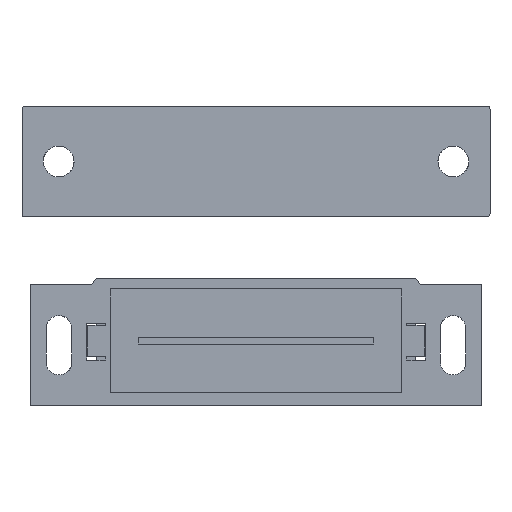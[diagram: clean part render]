
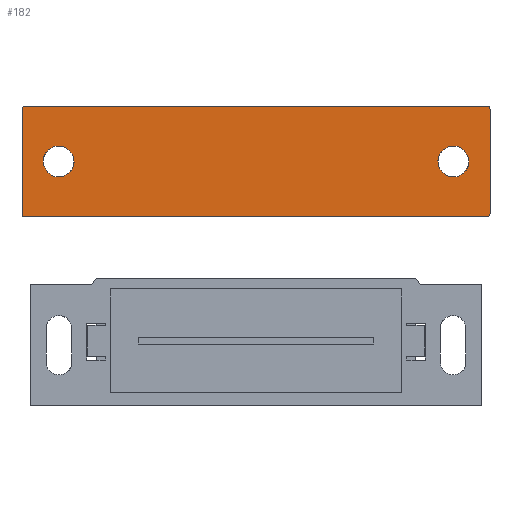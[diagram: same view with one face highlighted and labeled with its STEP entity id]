
A CAD part, front view. The second image highlights one B-rep face of the part: STEP entity #182.
In plain terms, the highlighted planar face has unit normal (0, -1, 0).
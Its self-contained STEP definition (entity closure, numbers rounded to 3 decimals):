
#39=FACE_BOUND('',#494,.T.);
#40=FACE_BOUND('',#495,.T.);
#182=ADVANCED_FACE('',(#333,#39,#40),#2618,.T.);
#333=FACE_OUTER_BOUND('',#493,.T.);
#493=EDGE_LOOP('',(#1289,#1290,#1291,#1292,#1293,#1294,#1295,#1296));
#494=EDGE_LOOP('',(#1297,#1298));
#495=EDGE_LOOP('',(#1299,#1300));
#1289=ORIENTED_EDGE('',*,*,#1765,.T.);
#1290=ORIENTED_EDGE('',*,*,#1739,.T.);
#1291=ORIENTED_EDGE('',*,*,#1759,.T.);
#1292=ORIENTED_EDGE('',*,*,#1741,.T.);
#1293=ORIENTED_EDGE('',*,*,#1761,.T.);
#1294=ORIENTED_EDGE('',*,*,#1745,.F.);
#1295=ORIENTED_EDGE('',*,*,#1763,.T.);
#1296=ORIENTED_EDGE('',*,*,#1749,.F.);
#1297=ORIENTED_EDGE('',*,*,#1731,.T.);
#1298=ORIENTED_EDGE('',*,*,#1768,.T.);
#1299=ORIENTED_EDGE('',*,*,#1734,.T.);
#1300=ORIENTED_EDGE('',*,*,#1771,.T.);
#1731=EDGE_CURVE('',#2445,#2469,#1831,.T.);
#1734=EDGE_CURVE('',#2447,#2471,#1833,.T.);
#1739=EDGE_CURVE('',#2452,#2451,#2177,.T.);
#1741=EDGE_CURVE('',#2453,#2454,#2179,.T.);
#1745=EDGE_CURVE('',#2457,#2458,#2183,.T.);
#1749=EDGE_CURVE('',#2461,#2462,#2187,.T.);
#1759=EDGE_CURVE('',#2451,#2453,#1839,.T.);
#1761=EDGE_CURVE('',#2454,#2458,#1841,.T.);
#1763=EDGE_CURVE('',#2457,#2462,#1843,.T.);
#1765=EDGE_CURVE('',#2461,#2452,#1845,.T.);
#1768=EDGE_CURVE('',#2469,#2445,#1847,.T.);
#1771=EDGE_CURVE('',#2471,#2447,#1849,.T.);
#1831=(
BOUNDED_CURVE()
B_SPLINE_CURVE(2,(#4407,#4408,#4409,#4410,#4411),.UNSPECIFIED.,.F.,.F.)
B_SPLINE_CURVE_WITH_KNOTS((3,2,3),(-15.708,-11.781,
-7.854),.UNSPECIFIED.)
CURVE()
GEOMETRIC_REPRESENTATION_ITEM()
RATIONAL_B_SPLINE_CURVE((1.,0.707,1.,0.707,1.))
REPRESENTATION_ITEM('')
);
#1833=(
BOUNDED_CURVE()
B_SPLINE_CURVE(2,(#4419,#4420,#4421,#4422,#4423),.UNSPECIFIED.,.F.,.F.)
B_SPLINE_CURVE_WITH_KNOTS((3,2,3),(-15.708,-11.781,-7.854),
 .UNSPECIFIED.)
CURVE()
GEOMETRIC_REPRESENTATION_ITEM()
RATIONAL_B_SPLINE_CURVE((1.,0.707,1.,0.707,1.))
REPRESENTATION_ITEM('')
);
#1839=(
BOUNDED_CURVE()
B_SPLINE_CURVE(2,(#4487,#4488,#4489),.UNSPECIFIED.,.F.,.F.)
B_SPLINE_CURVE_WITH_KNOTS((3,3),(-0.785,0.),.UNSPECIFIED.)
CURVE()
GEOMETRIC_REPRESENTATION_ITEM()
RATIONAL_B_SPLINE_CURVE((1.,0.707,1.))
REPRESENTATION_ITEM('')
);
#1841=(
BOUNDED_CURVE()
B_SPLINE_CURVE(2,(#4493,#4494,#4495),.UNSPECIFIED.,.F.,.F.)
B_SPLINE_CURVE_WITH_KNOTS((3,3),(-0.785,0.),.UNSPECIFIED.)
CURVE()
GEOMETRIC_REPRESENTATION_ITEM()
RATIONAL_B_SPLINE_CURVE((1.,0.707,1.))
REPRESENTATION_ITEM('')
);
#1843=(
BOUNDED_CURVE()
B_SPLINE_CURVE(2,(#4499,#4500,#4501),.UNSPECIFIED.,.F.,.F.)
B_SPLINE_CURVE_WITH_KNOTS((3,3),(-0.785,0.),.UNSPECIFIED.)
CURVE()
GEOMETRIC_REPRESENTATION_ITEM()
RATIONAL_B_SPLINE_CURVE((1.,0.707,1.))
REPRESENTATION_ITEM('')
);
#1845=(
BOUNDED_CURVE()
B_SPLINE_CURVE(2,(#4505,#4506,#4507),.UNSPECIFIED.,.F.,.F.)
B_SPLINE_CURVE_WITH_KNOTS((3,3),(-0.785,0.),.UNSPECIFIED.)
CURVE()
GEOMETRIC_REPRESENTATION_ITEM()
RATIONAL_B_SPLINE_CURVE((1.,0.707,1.))
REPRESENTATION_ITEM('')
);
#1847=(
BOUNDED_CURVE()
B_SPLINE_CURVE(2,(#4513,#4514,#4515,#4516,#4517),.UNSPECIFIED.,.F.,.F.)
B_SPLINE_CURVE_WITH_KNOTS((3,2,3),(-7.854,-3.927,
0.),.UNSPECIFIED.)
CURVE()
GEOMETRIC_REPRESENTATION_ITEM()
RATIONAL_B_SPLINE_CURVE((1.,0.707,1.,0.707,1.))
REPRESENTATION_ITEM('')
);
#1849=(
BOUNDED_CURVE()
B_SPLINE_CURVE(2,(#4525,#4526,#4527,#4528,#4529),.UNSPECIFIED.,.F.,.F.)
B_SPLINE_CURVE_WITH_KNOTS((3,2,3),(-7.854,-3.927,
0.),.UNSPECIFIED.)
CURVE()
GEOMETRIC_REPRESENTATION_ITEM()
RATIONAL_B_SPLINE_CURVE((1.,0.707,1.,0.707,1.))
REPRESENTATION_ITEM('')
);
#2177=B_SPLINE_CURVE_WITH_KNOTS('',1,(#4435,#4436),.UNSPECIFIED.,.F.,.F.,
(2,2),(-75.,0.),.UNSPECIFIED.);
#2179=B_SPLINE_CURVE_WITH_KNOTS('',1,(#4439,#4440),.UNSPECIFIED.,.F.,.F.,
(2,2),(-17.,0.),.UNSPECIFIED.);
#2183=B_SPLINE_CURVE_WITH_KNOTS('',1,(#4447,#4448),.UNSPECIFIED.,.F.,.F.,
(2,2),(0.,75.),.UNSPECIFIED.);
#2187=B_SPLINE_CURVE_WITH_KNOTS('',1,(#4455,#4456),.UNSPECIFIED.,.F.,.F.,
(2,2),(0.,17.),.UNSPECIFIED.);
#2445=VERTEX_POINT('',#4379);
#2447=VERTEX_POINT('',#4381);
#2451=VERTEX_POINT('',#4385);
#2452=VERTEX_POINT('',#4386);
#2453=VERTEX_POINT('',#4387);
#2454=VERTEX_POINT('',#4388);
#2457=VERTEX_POINT('',#4391);
#2458=VERTEX_POINT('',#4392);
#2461=VERTEX_POINT('',#4395);
#2462=VERTEX_POINT('',#4396);
#2469=VERTEX_POINT('',#4403);
#2471=VERTEX_POINT('',#4405);
#2618=PLANE('',#2938);
#2938=AXIS2_PLACEMENT_3D('',#4331,#3094,$);
#3094=DIRECTION('',(0.,-1.,0.));
#4331=CARTESIAN_POINT('',(-45.6,0.,40.65));
#4379=CARTESIAN_POINT('',(32.05,0.,32.35));
#4381=CARTESIAN_POINT('',(-32.05,0.,32.35));
#4385=CARTESIAN_POINT('',(37.5,0.,20.85));
#4386=CARTESIAN_POINT('',(-37.5,0.,20.85));
#4387=CARTESIAN_POINT('',(38.,0.,21.35));
#4388=CARTESIAN_POINT('',(38.,0.,38.35));
#4391=CARTESIAN_POINT('',(-37.5,0.,38.85));
#4392=CARTESIAN_POINT('',(37.5,0.,38.85));
#4395=CARTESIAN_POINT('',(-38.,0.,21.35));
#4396=CARTESIAN_POINT('',(-38.,0.,38.35));
#4403=CARTESIAN_POINT('',(32.05,0.,27.35));
#4405=CARTESIAN_POINT('',(-32.05,0.,27.35));
#4407=CARTESIAN_POINT('',(32.05,0.,32.35));
#4408=CARTESIAN_POINT('',(34.55,0.,32.35));
#4409=CARTESIAN_POINT('',(34.55,0.,29.85));
#4410=CARTESIAN_POINT('',(34.55,0.,27.35));
#4411=CARTESIAN_POINT('',(32.05,0.,27.35));
#4419=CARTESIAN_POINT('',(-32.05,0.,32.35));
#4420=CARTESIAN_POINT('',(-29.55,0.,32.35));
#4421=CARTESIAN_POINT('',(-29.55,0.,29.85));
#4422=CARTESIAN_POINT('',(-29.55,0.,27.35));
#4423=CARTESIAN_POINT('',(-32.05,0.,27.35));
#4435=CARTESIAN_POINT('',(-37.5,0.,20.85));
#4436=CARTESIAN_POINT('',(37.5,0.,20.85));
#4439=CARTESIAN_POINT('',(38.,0.,21.35));
#4440=CARTESIAN_POINT('',(38.,0.,38.35));
#4447=CARTESIAN_POINT('',(-37.5,0.,38.85));
#4448=CARTESIAN_POINT('',(37.5,0.,38.85));
#4455=CARTESIAN_POINT('',(-38.,0.,21.35));
#4456=CARTESIAN_POINT('',(-38.,0.,38.35));
#4487=CARTESIAN_POINT('',(37.5,0.,20.85));
#4488=CARTESIAN_POINT('',(38.,0.,20.85));
#4489=CARTESIAN_POINT('',(38.,0.,21.35));
#4493=CARTESIAN_POINT('',(38.,0.,38.35));
#4494=CARTESIAN_POINT('',(38.,0.,38.85));
#4495=CARTESIAN_POINT('',(37.5,0.,38.85));
#4499=CARTESIAN_POINT('',(-37.5,0.,38.85));
#4500=CARTESIAN_POINT('',(-38.,0.,38.85));
#4501=CARTESIAN_POINT('',(-38.,0.,38.35));
#4505=CARTESIAN_POINT('',(-38.,0.,21.35));
#4506=CARTESIAN_POINT('',(-38.,0.,20.85));
#4507=CARTESIAN_POINT('',(-37.5,0.,20.85));
#4513=CARTESIAN_POINT('',(32.05,0.,27.35));
#4514=CARTESIAN_POINT('',(29.55,0.,27.35));
#4515=CARTESIAN_POINT('',(29.55,0.,29.85));
#4516=CARTESIAN_POINT('',(29.55,0.,32.35));
#4517=CARTESIAN_POINT('',(32.05,0.,32.35));
#4525=CARTESIAN_POINT('',(-32.05,0.,27.35));
#4526=CARTESIAN_POINT('',(-34.55,0.,27.35));
#4527=CARTESIAN_POINT('',(-34.55,0.,29.85));
#4528=CARTESIAN_POINT('',(-34.55,0.,32.35));
#4529=CARTESIAN_POINT('',(-32.05,0.,32.35));
